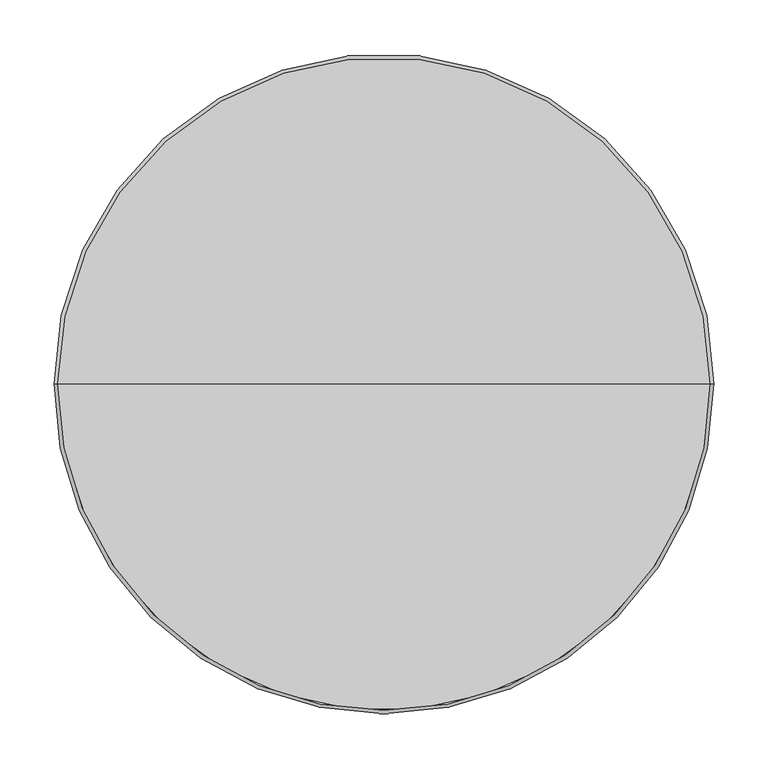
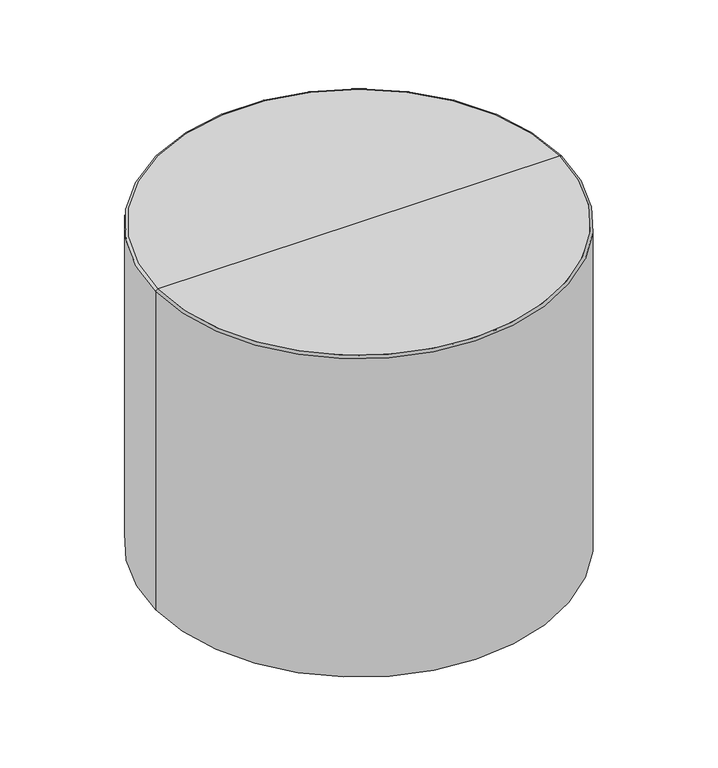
"""IFC4 building model written with IfcOpenShell, lengths in millimetres: furniture geometry, StanceHC-Drum_Table_Upholstered : DRT-24D-20-H."""

from ifc_helpers import new_model, si_unit, point, frame, frame_2d, origin, origin_with_axes, place, context, project, spatial, circle_curve, ellipse_curve, trimmed, segment, composite_curve, outline, extrude, source, transform, mapped, element, save
from ifc_brep_helpers import plane_surface, cylinder_surface, revolved_surface, advanced_brep


def furniture_3628cd61(model_context):
    return source(origin(), model_context, "Body", "SolidModel", [
        extrude(outline(composite_curve([segment(trimmed(circle_curve(frame_2d((0.0, 243.7664845)), 12.7), [point((-12.7, 243.7664845))], [point((12.7, 243.7664845))], False, "CARTESIAN"), True, "CONTINUOUS"), segment(trimmed(circle_curve(frame_2d((0.0, 243.7664845)), 12.7), [point((12.7, 243.7664845))], [point((-12.7, 243.7664845))], False, "CARTESIAN"), True, "CONTINUOUS")], self_intersect=False)), origin_with_axes(), (0.0, 0.0, 1.0), 4.7625),
        extrude(outline(composite_curve([segment(trimmed(circle_curve(frame_2d((0.0, -243.7664845)), 12.7), [point((-12.7, -243.7664845))], [point((12.7, -243.7664845))], False, "CARTESIAN"), True, "CONTINUOUS"), segment(trimmed(circle_curve(frame_2d((0.0, -243.7664845)), 12.7), [point((12.7, -243.7664845))], [point((-12.7, -243.7664845))], False, "CARTESIAN"), True, "CONTINUOUS")], self_intersect=False)), origin_with_axes(), (0.0, 0.0, 1.0), 4.7625),
        extrude(outline(composite_curve([segment(trimmed(circle_curve(frame_2d((247.6496404, 0.0)), 12.7), [point((234.9496404, 0.0))], [point((260.3496404, 0.0))], False, "CARTESIAN"), True, "CONTINUOUS"), segment(trimmed(circle_curve(frame_2d((247.6496404, 0.0)), 12.7), [point((260.3496404, 0.0))], [point((234.9496404, 0.0))], False, "CARTESIAN"), True, "CONTINUOUS")], self_intersect=False)), origin_with_axes(), (0.0, 0.0, 1.0), 4.7625),
        extrude(outline(composite_curve([segment(trimmed(circle_curve(frame_2d((-247.6496404, 0.0)), 12.7), [point((-260.3496404, 0.0))], [point((-234.9496404, 0.0))], False, "CARTESIAN"), True, "CONTINUOUS"), segment(trimmed(circle_curve(frame_2d((-247.6496404, 0.0)), 12.7), [point((-234.9496404, 0.0))], [point((-260.3496404, 0.0))], False, "CARTESIAN"), True, "CONTINUOUS")], self_intersect=False)), origin_with_axes(), (0.0, 0.0, 1.0), 4.7625),
        advanced_brep(
        [(-304.8, 0.0, 4.7625), (304.8, 0.0, 4.7625), (0.0, 0.0, 4.7625), (-304.8, 0.0, 509.6389933), (304.8, 0.0, 509.6389933), (-301.6764933, 0.0, 512.7625), (301.6764933, 0.0, 512.7625), (0.0, 0.0, 512.7625)],
        [
            (0, 1, circle_curve(frame((0.0, 0.0, 4.7625), z_axis=(0.0, 0.0, -1.0), x_axis=(1.0, 0.0, 0.0)), 304.8)),
            (1, 2),
            (2, 0),
            (1, 0, circle_curve(frame((0.0, 0.0, 4.7625), z_axis=(0.0, 0.0, -1.0), x_axis=(1.0, 0.0, 0.0)), 304.8)),
            (3, 4, circle_curve(frame((0.0, 0.0, 509.6389933), z_axis=(0.0, 0.0, -1.0), x_axis=(1.0, 0.0, 0.0)), 304.8)),
            (4, 1),
            (0, 3),
            (4, 3, circle_curve(frame((0.0, 0.0, 509.6389933), z_axis=(0.0, 0.0, -1.0), x_axis=(1.0, 0.0, 0.0)), 304.8)),
            (5, 6, circle_curve(frame((0.0, 0.0, 512.7625), z_axis=(0.0, 0.0, -1.0), x_axis=(1.0, 0.0, 0.0)), 301.6764933)),
            (6, 4, circle_curve(frame((301.6764933, 0.0, 509.6389933), z_axis=(0.0, 1.0, 0.0), x_axis=(1.0, 0.0, 0.0)), 3.1235067)),
            (3, 5, circle_curve(frame((-301.6764933, 0.0, 509.6389933), z_axis=(0.0, 1.0, 0.0), x_axis=(-1.0, 0.0, 0.0)), 3.1235067)),
            (6, 5, circle_curve(frame((0.0, 0.0, 512.7625), z_axis=(0.0, 0.0, -1.0), x_axis=(1.0, 0.0, 0.0)), 301.6764933)),
            (7, 6),
            (5, 7),
        ],
        [
            plane_surface(frame((0.0, 0.0, 4.7625), z_axis=(0.0, 0.0, -1.0), x_axis=(1.0, 0.0, 0.0))),
            cylinder_surface(frame((0.0, 0.0, 608.0125), z_axis=(0.0, 0.0, 1.0), x_axis=(1.0, 0.0, 0.0)), 304.8),
            revolved_surface(trimmed(ellipse_curve(frame((301.6764933, 0.0, 509.6389933), z_axis=(0.0, -1.0, 0.0), x_axis=(1.0, 0.0, 0.0)), 3.1235067, 3.1235067), [point((304.8, 0.0, 509.6389933))], [point((301.6764933, 0.0, 512.7625))], True, "CARTESIAN"), (0.0, 0.0, 608.0125), (0.0, 0.0, 1.0)),
            plane_surface(frame((0.0, 0.0, 512.7625), z_axis=(0.0, 0.0, 1.0), x_axis=(1.0, 0.0, 0.0))),
        ],
        [
            (0, [[1, 2, 3]]),
            (0, [[4, -3, -2]]),
            (1, [[5, 6, -1, 7]]),
            (1, [[8, -7, -4, -6]]),
            (2, [[9, 10, -5, 11]]),
            (2, [[12, -11, -8, -10]]),
            (3, [[13, -9, 14]]),
            (3, [[-14, -12, -13]]),
        ],
    ),
    ])


if __name__ == "__main__":
    model = new_model("IFC4")
    model_context = context("Model", 3, world=origin())
    ifc_project = project(units=[si_unit("LENGTHUNIT", "METRE", prefix="MILLI")], contexts=[model_context])
    site = spatial("IfcSite", under=ifc_project)
    building = spatial("IfcBuilding", under=site)
    placement = place(None, origin())
    furniture_shape = furniture_3628cd61(model_context)
    element("IfcFurniture", 1, ObjectType="StanceHC-Drum_Table_Upholstered : DRT-24D-20-H", at=placement, inside=building, context=model_context, shape_type="MappedRepresentation", body=[
        mapped(furniture_shape, transform((0.0, 0.0, 0.0), x_axis=(1.0, 0.0, 0.0), y_axis=(0.0, 1.0, 0.0), z_axis=(0.0, 0.0, 1.0))),
    ])
    save(model, "model.ifc")
